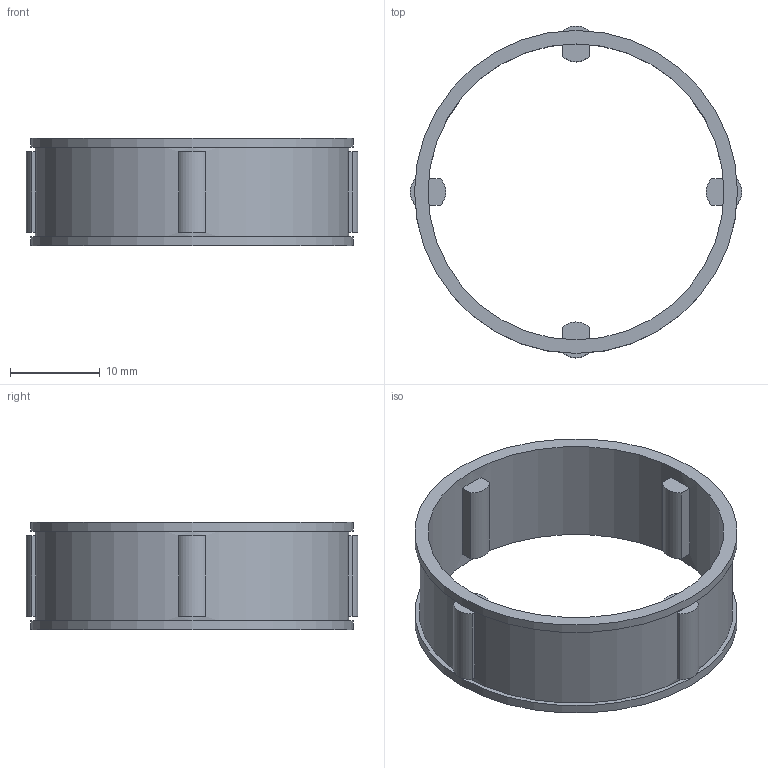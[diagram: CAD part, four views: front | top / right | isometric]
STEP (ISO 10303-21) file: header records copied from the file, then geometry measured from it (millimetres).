
FILE_DESCRIPTION(/* description */ (''),/* implementation_level */ '2;1');
FILE_NAME(/* name */ '300455 FE 437 Z.stp',/* time_stamp */ '2016-11-03T10:23:19+01:00',/* author */ (''),/* organization */ (''),/* preprocessor_version */ 'ST-DEVELOPER v15',/* originating_system */ 'SIEMENS PLM Software NX 8.5',/* authorisation */ '');
FILE_SCHEMA (('CONFIG_CONTROL_DESIGN'));
Length unit declared in the file: millimetre
Products named in the file (1): ATE0000080_01
Bounding box: 37 x 37 x 12 mm (x, y, z)
Volume: 1668.8 mm3; surface area: 3216.5 mm2
Topology: 1 solids, 1 shells, 48 faces, 114 edges, 76 vertices
Faces by surface type: plane 36, cylinder 12
Full cylindrical faces by diameter (mm): 33 x1, 35 x1, 36 x2
Entity records: 1420 total; most frequent: DIRECTION 242, CARTESIAN_POINT 225, ORIENTED_EDGE 208, EDGE_CURVE 104, AXIS2_PLACEMENT_3D 89, VERTEX_POINT 72, LINE 64, VECTOR 64
